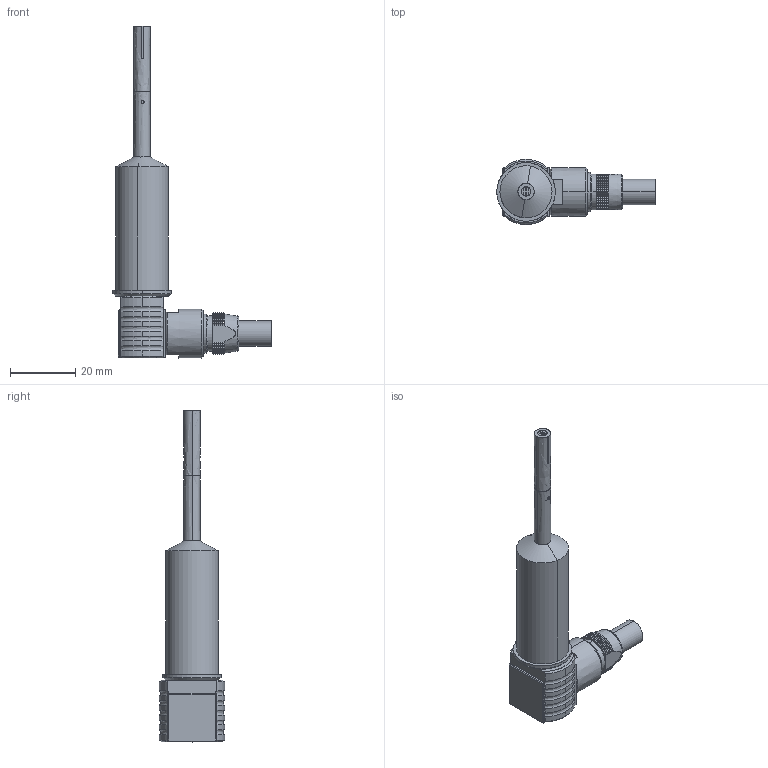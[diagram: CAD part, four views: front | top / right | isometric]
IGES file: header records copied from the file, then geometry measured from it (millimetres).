
Start section: SolidWorks IGES file using analytic representation for surfaces
Global section: file name: C:\SolidWorks Data (2)\Winker Foser\RISO5 Zeichnungen\RISO5_mittel_Stecker_rw.IGS; native system: SolidWorks 2010; preprocessor: SolidWorks 2010; author: m; date: 110221.020057; units: millimetre
Bounding box: 48.7 x 20 x 102 mm (x, y, z)
Surface area: 6033.9 mm2 (no closed solid volume)
Topology: 0 solids, 0 shells, 1311 faces, 6046 edges, 6044 vertices
Faces by surface type: bspline 712, revolution 599
